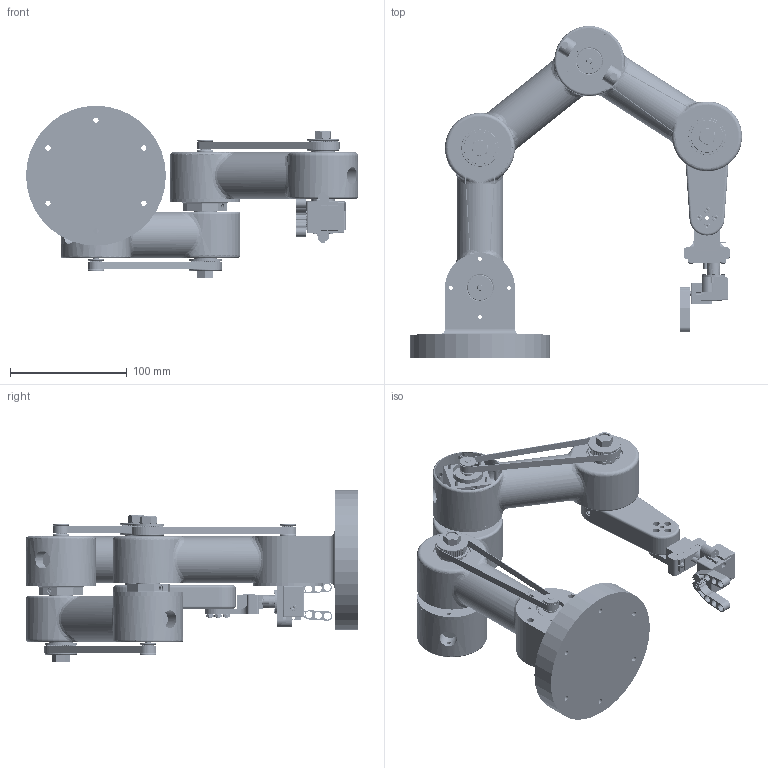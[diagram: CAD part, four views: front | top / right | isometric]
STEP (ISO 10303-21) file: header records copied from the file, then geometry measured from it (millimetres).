
FILE_DESCRIPTION(/* description */ (''),/* implementation_level */ '2;1');
FILE_NAME(/* name */ 'Assieme_robot_nema14.stp',/* time_stamp */ '2025-05-30T12:35:47+02:00',/* author */ ('Ryzen5700u'),/* organization */ (''),/* preprocessor_version */ 'ST-DEVELOPER v20',/* originating_system */ 'Autodesk Inventor 2025',/* authorisation */ '');
FILE_SCHEMA (('AUTOMOTIVE_DESIGN { 1 0 10303 214 3 1 1 }'));
Products named in the file (36): Assieme6; base; blocco_quadrato; blocco3; NEMA_14-13mm; NEMA_14HM11-0404S; NEMA_14HM11-0404S_SHAFT13; GT2 16 Teeth Free Pulley v3; blocco_quadrato2; AS 1420 - 1973 - M3 x 10; alberocavo; GT2 Timing Pulley T40 small; %3% BS 290 - SKF 16002; AS 1427 - M8 x 70; Trasmissione cinghie sincrone; Cinghia sincrona; alberocavo_1; anello_16mm; braccio finale; Assieme_pinza_m5_2gdl_MG90; Assieme_pinza_m5; Ingranaggio cilindrico11_MIR; Ingranaggio cilindrico11; SG90 - Micro Servo 9g - Tower Pro.1_Pea; corpo_m5; AS 1420 - 1973 - M3 x 6; MG90S_assieme_disco_ldb2; MG90_ldb; scritta_MG90s; corpo_MG90; disco_MG90s; link2_MG90; AS 1427 - M2,5 x 8_1; Screw GB/T 6561 M2 x 6; AS 1420 - 1973 - M3 x 20; AS 1112 - M3  Tipo 5
Assembly tree (68 placements, depth 4):
  Assieme6
    base
    NEMA_14-13mm  x3
      NEMA_14HM11-0404S
      NEMA_14HM11-0404S_SHAFT13
      GT2 16 Teeth Free Pulley v3
    GT2 Timing Pulley T40 small  x3
    blocco3  x2
    %3% BS 290 - SKF 16002  x6
    blocco_quadrato  x2
    alberocavo_1  x3
    Trasmissione cinghie sincrone  x3
      Cinghia sincrona
    anello_16mm  x6
    blocco_quadrato2
    AS 1420 - 1973 - M3 x 10
    alberocavo
    AS 1427 - M8 x 70  x3
    braccio finale
    Assieme_pinza_m5_2gdl_MG90
      Assieme_pinza_m5
        Ingranaggio cilindrico11_MIR
        Ingranaggio cilindrico11
        SG90 - Micro Servo 9g - Tower Pro.1_Pea
        corpo_m5
        AS 1420 - 1973 - M3 x 6
      MG90S_assieme_disco_ldb2
        MG90_ldb
        scritta_MG90s  x2
      corpo_MG90
      disco_MG90s
      link2_MG90
      AS 1427 - M2,5 x 8_1  x2
      Screw GB/T 6561 M2 x 6  x4
    AS 1420 - 1973 - M3 x 20  x4
    AS 1112 - M3  Tipo 5  x4
Bounding box: 284.8 x 284.68 x 148.03 mm (x, y, z)
Volume: 1272619.2 mm3; surface area: 335315.6 mm2
Topology: 79 solids, 79 shells, 3907 faces, 12211 edges, 8660 vertices
Faces by surface type: plane 1628, cylinder 1463, bspline 343, cone 223, torus 204, sphere 46
Full cylindrical faces by diameter (mm): 0.2 x1, 0.5 x1, 1 x6, 1.1 x48, 1.167 x3, 1.5 x2, 1.509 x4, 1.6 x2, 1.8 x12, 2 x12, 2.2 x1, 2.224 x2, 2.459 x43, 2.5 x7, 3 x9, 3.2 x9, 3.4 x43, 3.5 x4, 4 x1, 4.5 x6, 4.7 x2, 4.8 x2, 5 x11, 5.5 x10, 5.8 x4, 6 x35, 6.779 x24, 7 x3, 8 x15, 8.17 x13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
Entity records: 151053 total; most frequent: CARTESIAN_POINT 81534, ORIENTED_EDGE 15290, DIRECTION 12662, EDGE_CURVE 7645, VERTEX_POINT 5473, AXIS2_PLACEMENT_3D 4396, LINE 3870, VECTOR 3870
